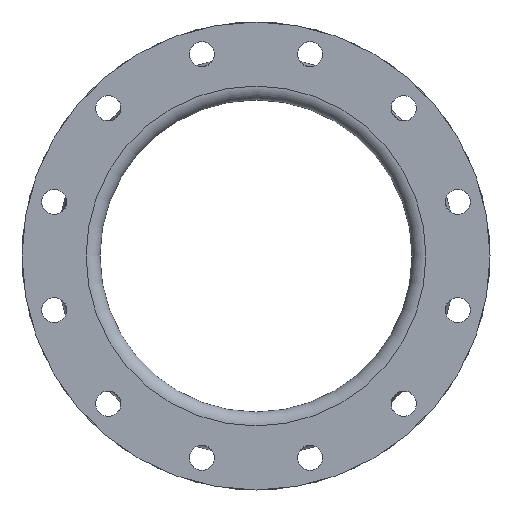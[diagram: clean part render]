
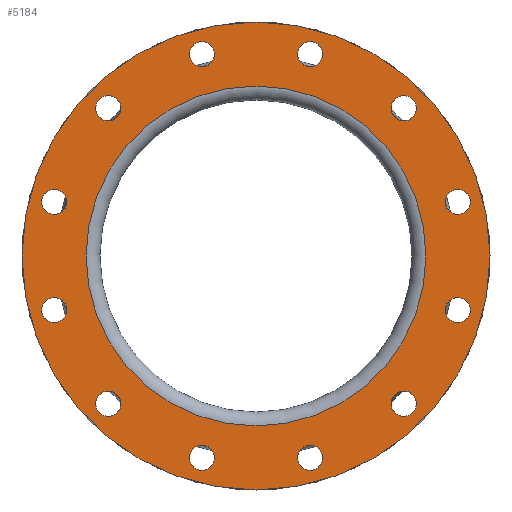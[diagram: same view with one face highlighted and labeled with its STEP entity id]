
A CAD part, left-side view. The second image highlights one B-rep face of the part: STEP entity #5184.
In plain terms, the highlighted planar face has unit normal (-1, 0, 0).
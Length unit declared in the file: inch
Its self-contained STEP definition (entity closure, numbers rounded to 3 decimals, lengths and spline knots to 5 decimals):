
#4465=CARTESIAN_POINT('',(-6.,6.91038,-6.14199));
#4466=VERTEX_POINT('',#4465);
#4467=CARTESIAN_POINT('',(-6.,6.62913,-6.62913));
#4468=DIRECTION('',(1.0,0.0,0.0));
#4469=DIRECTION('',(0.0,-0.5,-0.866));
#4470=AXIS2_PLACEMENT_3D('',#4467,#4468,#4469);
#4471=CIRCLE('',#4470,0.5625);
#4472=EDGE_CURVE('',#4466,#4466,#4471,.T.);
#4493=CARTESIAN_POINT('',(-6.,2.91357,-8.7743));
#4494=VERTEX_POINT('',#4493);
#4495=CARTESIAN_POINT('',(-6.,2.42643,-9.05555));
#4496=DIRECTION('',(1.0,0.0,0.0));
#4497=DIRECTION('',(0.0,-0.866,-0.5));
#4498=AXIS2_PLACEMENT_3D('',#4495,#4496,#4497);
#4499=CIRCLE('',#4498,0.5625);
#4500=EDGE_CURVE('',#4494,#4494,#4499,.T.);
#4521=CARTESIAN_POINT('',(-6.,-1.86393,-9.05555));
#4522=VERTEX_POINT('',#4521);
#4523=CARTESIAN_POINT('',(-6.,-2.42643,-9.05555));
#4524=DIRECTION('',(1.0,0.0,0.0));
#4525=DIRECTION('',(0.0,-1.0,0.0));
#4526=AXIS2_PLACEMENT_3D('',#4523,#4524,#4525);
#4527=CIRCLE('',#4526,0.5625);
#4528=EDGE_CURVE('',#4522,#4522,#4527,.T.);
#4549=CARTESIAN_POINT('',(-6.,-6.14199,-6.91038));
#4550=VERTEX_POINT('',#4549);
#4551=CARTESIAN_POINT('',(-6.,-6.62913,-6.62913));
#4552=DIRECTION('',(1.0,0.0,0.0));
#4553=DIRECTION('',(0.0,-0.866,0.5));
#4554=AXIS2_PLACEMENT_3D('',#4551,#4552,#4553);
#4555=CIRCLE('',#4554,0.5625);
#4556=EDGE_CURVE('',#4550,#4550,#4555,.T.);
#4577=CARTESIAN_POINT('',(-6.,-8.7743,-2.91357));
#4578=VERTEX_POINT('',#4577);
#4579=CARTESIAN_POINT('',(-6.,-9.05555,-2.42643));
#4580=DIRECTION('',(1.0,0.0,0.0));
#4581=DIRECTION('',(0.0,-0.5,0.866));
#4582=AXIS2_PLACEMENT_3D('',#4579,#4580,#4581);
#4583=CIRCLE('',#4582,0.5625);
#4584=EDGE_CURVE('',#4578,#4578,#4583,.T.);
#4605=CARTESIAN_POINT('',(-6.,-9.05555,1.86393));
#4606=VERTEX_POINT('',#4605);
#4607=CARTESIAN_POINT('',(-6.,-9.05555,2.42643));
#4608=DIRECTION('',(1.0,0.0,0.0));
#4609=DIRECTION('',(0.0,0.0,1.0));
#4610=AXIS2_PLACEMENT_3D('',#4607,#4608,#4609);
#4611=CIRCLE('',#4610,0.5625);
#4612=EDGE_CURVE('',#4606,#4606,#4611,.T.);
#4633=CARTESIAN_POINT('',(-6.,-6.91038,6.14199));
#4634=VERTEX_POINT('',#4633);
#4635=CARTESIAN_POINT('',(-6.,-6.62913,6.62913));
#4636=DIRECTION('',(1.,0.0,0.0));
#4637=DIRECTION('',(0.0,0.5,0.866));
#4638=AXIS2_PLACEMENT_3D('',#4635,#4636,#4637);
#4639=CIRCLE('',#4638,0.5625);
#4640=EDGE_CURVE('',#4634,#4634,#4639,.T.);
#4661=CARTESIAN_POINT('',(-6.,-2.91357,8.7743));
#4662=VERTEX_POINT('',#4661);
#4663=CARTESIAN_POINT('',(-6.,-2.42643,9.05555));
#4664=DIRECTION('',(1.0,0.0,0.0));
#4665=DIRECTION('',(0.0,0.866,0.5));
#4666=AXIS2_PLACEMENT_3D('',#4663,#4664,#4665);
#4667=CIRCLE('',#4666,0.5625);
#4668=EDGE_CURVE('',#4662,#4662,#4667,.T.);
#4689=CARTESIAN_POINT('',(-6.,1.86393,9.05555));
#4690=VERTEX_POINT('',#4689);
#4691=CARTESIAN_POINT('',(-6.,2.42643,9.05555));
#4692=DIRECTION('',(1.0,0.0,0.0));
#4693=DIRECTION('',(0.0,1.0,0.0));
#4694=AXIS2_PLACEMENT_3D('',#4691,#4692,#4693);
#4695=CIRCLE('',#4694,0.5625);
#4696=EDGE_CURVE('',#4690,#4690,#4695,.T.);
#4717=CARTESIAN_POINT('',(-6.,6.14199,6.91038));
#4718=VERTEX_POINT('',#4717);
#4719=CARTESIAN_POINT('',(-6.,6.62913,6.62913));
#4720=DIRECTION('',(1.,0.0,0.0));
#4721=DIRECTION('',(0.0,0.866,-0.5));
#4722=AXIS2_PLACEMENT_3D('',#4719,#4720,#4721);
#4723=CIRCLE('',#4722,0.5625);
#4724=EDGE_CURVE('',#4718,#4718,#4723,.T.);
#4745=CARTESIAN_POINT('',(-6.,8.7743,2.91357));
#4746=VERTEX_POINT('',#4745);
#4747=CARTESIAN_POINT('',(-6.,9.05555,2.42643));
#4748=DIRECTION('',(1.0,0.0,0.0));
#4749=DIRECTION('',(0.0,0.5,-0.866));
#4750=AXIS2_PLACEMENT_3D('',#4747,#4748,#4749);
#4751=CIRCLE('',#4750,0.5625);
#4752=EDGE_CURVE('',#4746,#4746,#4751,.T.);
#4773=CARTESIAN_POINT('',(-6.,9.05555,-1.86393));
#4774=VERTEX_POINT('',#4773);
#4775=CARTESIAN_POINT('',(-6.,9.05555,-2.42643));
#4776=DIRECTION('',(1.0,0.0,0.0));
#4777=DIRECTION('',(0.0,0.0,-1.0));
#4778=AXIS2_PLACEMENT_3D('',#4775,#4776,#4777);
#4779=CIRCLE('',#4778,0.5625);
#4780=EDGE_CURVE('',#4774,#4774,#4779,.T.);
#5121=CARTESIAN_POINT('',(-6.,10.4375,0.0));
#5122=DIRECTION('',(-1.0,0.0,0.0));
#5123=DIRECTION('',(0.0,0.0,1.0));
#5124=AXIS2_PLACEMENT_3D('',#5121,#5122,#5123);
#5125=PLANE('',#5124);
#5126=CARTESIAN_POINT('',(-6.,10.5,0.0));
#5127=VERTEX_POINT('',#5126);
#5128=CARTESIAN_POINT('',(-6.,0.,0.0));
#5129=DIRECTION('',(1.0,0.0,0.0));
#5130=DIRECTION('',(0.0,1.0,0.0));
#5131=AXIS2_PLACEMENT_3D('',#5128,#5129,#5130);
#5132=CIRCLE('',#5131,10.5);
#5133=EDGE_CURVE('',#5127,#5127,#5132,.T.);
#5134=ORIENTED_EDGE('',*,*,#5133,.F.);
#5135=EDGE_LOOP('',(#5134));
#5136=FACE_OUTER_BOUND('',#5135,.T.);
#5137=ORIENTED_EDGE('',*,*,#4472,.T.);
#5138=EDGE_LOOP('',(#5137));
#5139=FACE_BOUND('',#5138,.T.);
#5140=ORIENTED_EDGE('',*,*,#4500,.T.);
#5141=EDGE_LOOP('',(#5140));
#5142=FACE_BOUND('',#5141,.T.);
#5143=ORIENTED_EDGE('',*,*,#4528,.T.);
#5144=EDGE_LOOP('',(#5143));
#5145=FACE_BOUND('',#5144,.T.);
#5146=ORIENTED_EDGE('',*,*,#4556,.T.);
#5147=EDGE_LOOP('',(#5146));
#5148=FACE_BOUND('',#5147,.T.);
#5149=ORIENTED_EDGE('',*,*,#4584,.T.);
#5150=EDGE_LOOP('',(#5149));
#5151=FACE_BOUND('',#5150,.T.);
#5152=ORIENTED_EDGE('',*,*,#4612,.T.);
#5153=EDGE_LOOP('',(#5152));
#5154=FACE_BOUND('',#5153,.T.);
#5155=ORIENTED_EDGE('',*,*,#4640,.T.);
#5156=EDGE_LOOP('',(#5155));
#5157=FACE_BOUND('',#5156,.T.);
#5158=ORIENTED_EDGE('',*,*,#4668,.T.);
#5159=EDGE_LOOP('',(#5158));
#5160=FACE_BOUND('',#5159,.T.);
#5161=ORIENTED_EDGE('',*,*,#4696,.T.);
#5162=EDGE_LOOP('',(#5161));
#5163=FACE_BOUND('',#5162,.T.);
#5164=ORIENTED_EDGE('',*,*,#4724,.T.);
#5165=EDGE_LOOP('',(#5164));
#5166=FACE_BOUND('',#5165,.T.);
#5167=ORIENTED_EDGE('',*,*,#4752,.T.);
#5168=EDGE_LOOP('',(#5167));
#5169=FACE_BOUND('',#5168,.T.);
#5170=ORIENTED_EDGE('',*,*,#4780,.T.);
#5171=EDGE_LOOP('',(#5170));
#5172=FACE_BOUND('',#5171,.T.);
#5173=CARTESIAN_POINT('',(-6.,7.625,0.0));
#5174=VERTEX_POINT('',#5173);
#5175=CARTESIAN_POINT('',(-6.,0.,0.0));
#5176=DIRECTION('',(1.0,0.0,0.0));
#5177=DIRECTION('',(0.0,1.0,0.0));
#5178=AXIS2_PLACEMENT_3D('',#5175,#5176,#5177);
#5179=CIRCLE('',#5178,7.625);
#5180=EDGE_CURVE('',#5174,#5174,#5179,.T.);
#5181=ORIENTED_EDGE('',*,*,#5180,.T.);
#5182=EDGE_LOOP('',(#5181));
#5183=FACE_BOUND('',#5182,.T.);
#5184=ADVANCED_FACE('',(#5136,#5139,#5142,#5145,#5148,#5151,#5154,#5157,#5160,#5163,#5166,#5169,#5172,#5183),#5125,.T.);
